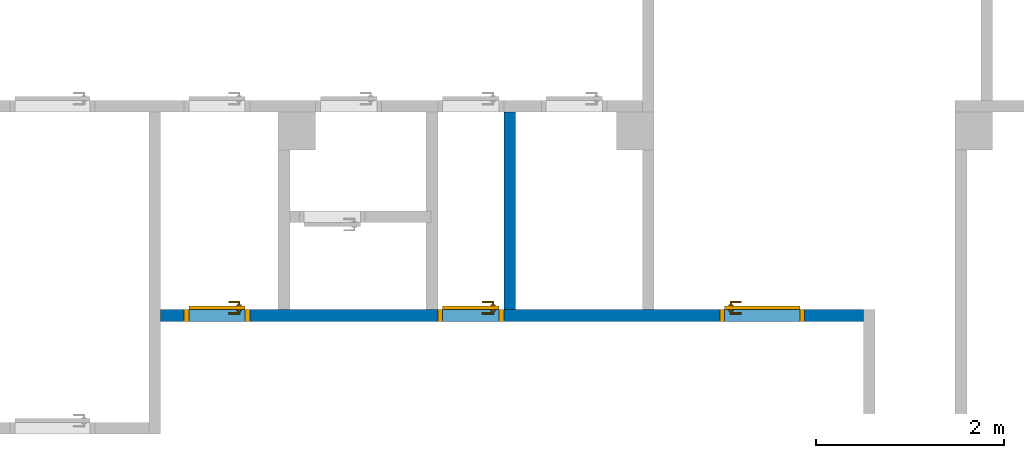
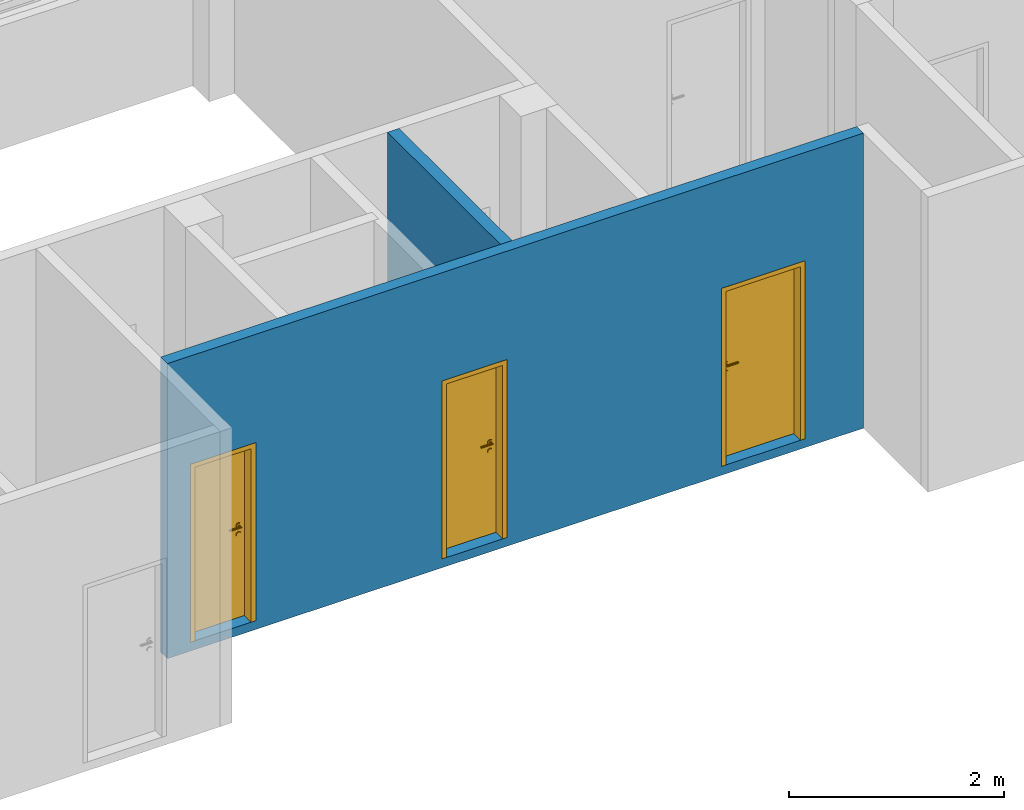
# One storey, part 7 of 37: 3 doors, 2 walls, 3 openings.
"""IFC4 building model written with IfcOpenShell, lengths in metres."""

from ifc_helpers import new_model, entity, si_unit, converted_unit, derived_unit, frame, frame_2d, origin, origin_with_axes, place, context, subcontext, project, spatial, polyline, rectangle, outline, extrude, closed_shell, open_shell, surface_model, source, transform, mapped, material, layer, layer_set, layer_usage, type_object, element, fill, save


model = new_model("IFC4")

# Units and contexts
model_context = context("Model", 3, precision=1e-05, world=origin())
body_context = subcontext(model_context, "Body", "Model", "MODEL_VIEW")
ifc_project = project(units=[si_unit("LENGTHUNIT", "METRE"), si_unit("AREAUNIT", "SQUARE_METRE"), si_unit("VOLUMEUNIT", "CUBIC_METRE"), si_unit("MASSUNIT", "GRAM", prefix="KILO"), converted_unit("PLANEANGLEUNIT", "DEGREE", entity("IfcPlaneAngleMeasure", 0.0174532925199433), si_unit("PLANEANGLEUNIT", "RADIAN"), dimensions=[0, 0, 0, 0, 0, 0, 0]), derived_unit("THERMALTRANSMITTANCEUNIT", [(si_unit("POWERUNIT", "WATT"), 1), (si_unit("THERMODYNAMICTEMPERATUREUNIT", "KELVIN"), -1), (si_unit("LENGTHUNIT", "METRE"), -2)]), derived_unit("VOLUMETRICFLOWRATEUNIT", [(si_unit("LENGTHUNIT", "METRE"), 3), (converted_unit("TIMEUNIT", "hour", entity("IfcTimeMeasure", 3600.0), si_unit("TIMEUNIT", "SECOND"), dimensions=[0, 0, 1, 0, 0, 0, 0]), -1), (si_unit("LENGTHUNIT", "METRE"), -1)])], contexts=[model_context])

# Site, building, storey
site_placement = place(None, origin())
site = spatial("IfcSite", under=ifc_project, at=site_placement, Name="3. ASŘ", CompositionType="ELEMENT")
building_placement = place(site_placement, origin())
building = spatial("IfcBuilding", under=site, at=building_placement, Name="Pavilon B", CompositionType="ELEMENT")
storey_placement = place(building_placement, origin())
storey = spatial("IfcBuildingStorey", under=building, at=storey_placement, Name="Půdorys 1.NP", CompositionType="ELEMENT", Elevation=0.0)

# Wall, openings, doors
ifc_material_1 = material(Name="ZDIVO Z CDm")
ifc_layer_1 = layer(ifc_material_1, 0.125)
ifc_layer_set_1 = layer_set([ifc_layer_1])
ifc_layer_usage_1 = layer_usage(ifc_layer_set_1, "AXIS2", "POSITIVE", 0.0)
wall_1_placement = place(storey_placement, frame((23.425, -23.5, -0.1), z_axis=(0.0, 0.0, 1.0), x_axis=(-1.0, 0.0, 0.0)))
wall_1 = element("IfcWall", 1, at=wall_1_placement, inside=storey, material=ifc_layer_usage_1, Name="ZDIVO Z CDm", context=body_context, shape_type="SweptSolid", body=[
    extrude(rectangle(XDim=7.475, YDim=0.125, at=frame_2d((3.7375, 0.0625), x_axis=(1.0, 0.0))), origin_with_axes(), (0.0, 0.0, 1.0), 3.35),
])
opening_1_placement = place(wall_1_placement, frame((3.825, 0.0, 0.1), z_axis=(0.0, 1.0, 0.0), x_axis=(0.0, 0.0, 1.0)))
opening_1 = element("IfcOpeningElement", 2, at=opening_1_placement, cuts=wall_1, Name="Dveřní otvor", ObjectType="Opening", context=body_context, shape_type="SweptSolid", body=[
    extrude(outline(polyline([(0.0, 0.7), (2.02, 0.7), (2.02, 0.0), (0.0, 0.0), (0.0, 0.7)])), origin_with_axes(), (0.0, 0.0, 1.0), 0.125),
])
opening_2_placement = place(wall_1_placement, frame((6.525, 0.0, 0.1), z_axis=(0.0, 1.0, 0.0), x_axis=(0.0, 0.0, 1.0)))
opening_2 = element("IfcOpeningElement", 3, at=opening_2_placement, cuts=wall_1, Name="Dveřní otvor", ObjectType="Opening", context=body_context, shape_type="SweptSolid", body=[
    extrude(outline(polyline([(0.0, 0.7), (2.02, 0.7), (2.02, 0.0), (0.0, 0.0), (0.0, 0.7)])), origin_with_axes(), (0.0, 0.0, 1.0), 0.125),
])
opening_3_placement = place(wall_1_placement, frame((0.625000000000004, 0.0, 0.1), z_axis=(0.0, 1.0, 0.0), x_axis=(0.0, 0.0, 1.0)))
opening_3 = element("IfcOpeningElement", 4, at=opening_3_placement, cuts=wall_1, Name="Dveřní otvor", ObjectType="Opening", context=body_context, shape_type="SweptSolid", body=[
    extrude(outline(polyline([(0.0, 0.9), (2.02, 0.9), (2.02, 0.0), (0.0, 0.0), (0.0, 0.9)])), origin_with_axes(), (0.0, 0.0, 1.0), 0.125),
])
door_type_1 = type_object("IfcDoorType", Name="D101", OperationType="NOTDEFINED", ParameterTakesPrecedence=False, PredefinedType="DOOR")
shared_shape_1 = source(origin_with_axes(), body_context, "Body", "SurfaceModel", [
    surface_model("IfcShellBasedSurfaceModel", [(0.0, 0.125, 2.02), (0.0, 0.125, -7.65404249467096e-18), (0.05, 0.125, -7.65404249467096e-18), (0.05, 0.125, 2.02), (0.0, 0.0, 7.65404249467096e-18), (0.0, 2.41584530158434e-16, 2.02), (0.05, 2.41584530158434e-16, 2.02), (0.05, 0.0, 7.65404249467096e-18)], [closed_shell([[[0, 1, 2, 3]], [[4, 5, 6, 7]], [[1, 0, 5, 4]], [[2, 1, 4, 7]], [[3, 2, 7, 6]], [[0, 3, 6, 5]]], orient=[[False], [False], [False], [False], [False], [False]])]),
    surface_model("IfcShellBasedSurfaceModel", [(0.65, 0.125, 2.02), (0.65, 0.125, -7.65404249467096e-18), (0.7, 0.125, -7.65404249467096e-18), (0.7, 0.125, 2.02), (0.65, 0.0, 7.65404249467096e-18), (0.65, 2.41584530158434e-16, 2.02), (0.7, 2.41584530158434e-16, 2.02), (0.7, 0.0, 7.65404249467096e-18)], [closed_shell([[[0, 1, 2, 3]], [[4, 5, 6, 7]], [[1, 0, 5, 4]], [[2, 1, 4, 7]], [[3, 2, 7, 6]], [[0, 3, 6, 5]]], orient=[[False], [False], [False], [False], [False], [False]])]),
    surface_model("IfcShellBasedSurfaceModel", [(0.05, 0.125, 2.02), (0.05, 0.125, 1.97), (0.65, 0.125, 1.97), (0.65, 0.125, 2.02), (0.05, 2.41584530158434e-16, 1.97), (0.05, 2.41584530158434e-16, 2.02), (0.65, 2.41584530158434e-16, 2.02), (0.65, 2.41584530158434e-16, 1.97)], [closed_shell([[[0, 1, 2, 3]], [[4, 5, 6, 7]], [[1, 0, 5, 4]], [[2, 1, 4, 7]], [[3, 2, 7, 6]], [[0, 3, 6, 5]]], orient=[[False], [False], [False], [False], [False], [False]])]),
    surface_model("IfcShellBasedSurfaceModel", [(0.05, 0.165, 1.97), (0.05, 0.165, -1.25526296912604e-17), (0.65, 0.165, -1.25526296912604e-17), (0.65, 0.165, 1.97), (0.05, 0.125, -7.65404249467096e-18), (0.05, 0.125, 1.97), (0.65, 0.125, 1.97), (0.65, 0.125, -7.65404249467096e-18)], [closed_shell([[[0, 1, 2, 3]], [[4, 5, 6, 7]], [[1, 0, 5, 4]], [[2, 1, 4, 7]], [[3, 2, 7, 6]], [[0, 3, 6, 5]]], orient=[[False], [False], [False], [False], [False], [False]])]),
    surface_model("IfcShellBasedSurfaceModel", [(0.608815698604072, 0.125, 0.93625), (0.6125, 0.125, 0.95), (0.608815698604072, 0.125, 0.96375), (0.59875, 0.125, 0.973815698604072), (0.585, 0.125, 0.9775), (0.57125, 0.125, 0.973815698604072), (0.561184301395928, 0.125, 0.96375), (0.5575, 0.125, 0.95), (0.561184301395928, 0.125, 0.93625), (0.57125, 0.125, 0.926184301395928), (0.585, 0.125, 0.9225), (0.59875, 0.125, 0.926184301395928), (0.6125, 0.1125, 0.95), (0.608815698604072, 0.1125, 0.93625), (0.59875, 0.1125, 0.926184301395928), (0.585, 0.1125, 0.9225), (0.57125, 0.1125, 0.926184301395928), (0.561184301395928, 0.1125, 0.93625), (0.5575, 0.1125, 0.95), (0.561184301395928, 0.1125, 0.96375), (0.57125, 0.1125, 0.973815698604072), (0.585, 0.1125, 0.9775), (0.59875, 0.1125, 0.973815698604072), (0.608815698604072, 0.1125, 0.96375)], [closed_shell([[[0, 1, 2, 3, 4, 5, 6, 7, 8, 9, 10, 11]], [[12, 13, 14, 15, 16, 17, 18, 19, 20, 21, 22, 23]], [[1, 0, 13, 12]], [[2, 1, 12, 23]], [[3, 2, 23, 22]], [[4, 3, 22, 21]], [[5, 4, 21, 20]], [[6, 5, 20, 19]], [[7, 6, 19, 18]], [[8, 7, 18, 17]], [[9, 8, 17, 16]], [[10, 9, 16, 15]], [[11, 10, 15, 14]], [[0, 11, 14, 13]]], orient=[[False], [False], [False], [False], [False], [False], [False], [False], [False], [False], [False], [False], [False], [False]])]),
    surface_model("IfcShellBasedSurfaceModel", [(0.608815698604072, 0.125, 1.03625), (0.6125, 0.125, 1.05), (0.608815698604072, 0.125, 1.06375), (0.59875, 0.125, 1.07381569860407), (0.585, 0.125, 1.0775), (0.57125, 0.125, 1.07381569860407), (0.561184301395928, 0.125, 1.06375), (0.5575, 0.125, 1.05), (0.561184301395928, 0.125, 1.03625), (0.57125, 0.125, 1.02618430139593), (0.585, 0.125, 1.0225), (0.59875, 0.125, 1.02618430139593), (0.6125, 0.1125, 1.05), (0.608815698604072, 0.1125, 1.03625), (0.59875, 0.1125, 1.02618430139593), (0.585, 0.1125, 1.0225), (0.57125, 0.1125, 1.02618430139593), (0.561184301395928, 0.1125, 1.03625), (0.5575, 0.1125, 1.05), (0.561184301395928, 0.1125, 1.06375), (0.57125, 0.1125, 1.07381569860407), (0.585, 0.1125, 1.0775), (0.59875, 0.1125, 1.07381569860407), (0.608815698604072, 0.1125, 1.06375)], [closed_shell([[[0, 1, 2, 3, 4, 5, 6, 7, 8, 9, 10, 11]], [[12, 13, 14, 15, 16, 17, 18, 19, 20, 21, 22, 23]], [[1, 0, 13, 12]], [[2, 1, 12, 23]], [[3, 2, 23, 22]], [[4, 3, 22, 21]], [[5, 4, 21, 20]], [[6, 5, 20, 19]], [[7, 6, 19, 18]], [[8, 7, 18, 17]], [[9, 8, 17, 16]], [[10, 9, 16, 15]], [[11, 10, 15, 14]], [[0, 11, 14, 13]]], orient=[[False], [False], [False], [False], [False], [False], [False], [False], [False], [False], [False], [False], [False], [False]])]),
    surface_model("IfcShellBasedSurfaceModel", [(0.585, 0.125, 1.06), (0.58, 0.125, 1.05866025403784), (0.576339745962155, 0.125, 1.055), (0.575, 0.125, 1.05), (0.576339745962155, 0.125, 1.045), (0.58, 0.125, 1.04133974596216), (0.585, 0.125, 1.04), (0.59, 0.125, 1.04133974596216), (0.593660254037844, 0.125, 1.045), (0.595, 0.125, 1.05), (0.593660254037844, 0.125, 1.055), (0.59, 0.125, 1.05866025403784), (0.59, 0.0800000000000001, 1.05866025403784), (0.585, 0.0850000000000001, 1.06), (0.593660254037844, 0.0763397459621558, 1.055), (0.595, 0.0750000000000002, 1.05), (0.593660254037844, 0.0763397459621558, 1.045), (0.59, 0.0800000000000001, 1.04133974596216), (0.585, 0.0850000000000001, 1.04), (0.58, 0.0900000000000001, 1.04133974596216), (0.576339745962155, 0.0936602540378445, 1.045), (0.575, 0.0950000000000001, 1.05), (0.576339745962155, 0.0936602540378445, 1.055), (0.58, 0.0900000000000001, 1.05866025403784), (0.47, 0.0800000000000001, 1.05866025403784), (0.47, 0.0850000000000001, 1.06), (0.47, 0.0763397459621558, 1.055), (0.47, 0.0750000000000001, 1.05), (0.47, 0.0763397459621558, 1.045), (0.47, 0.0800000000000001, 1.04133974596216), (0.47, 0.0850000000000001, 1.04), (0.47, 0.0900000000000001, 1.04133974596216), (0.47, 0.0936602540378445, 1.045), (0.47, 0.0950000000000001, 1.05), (0.47, 0.0936602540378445, 1.055), (0.47, 0.0900000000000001, 1.05866025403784)], [open_shell([[[0, 1, 2, 3, 4, 5, 6, 7, 8, 9, 10, 11]], [[0, 11, 12, 13]], [[11, 10, 14, 12]], [[10, 9, 15, 14]], [[9, 8, 16, 15]], [[8, 7, 17, 16]], [[7, 6, 18, 17]], [[6, 5, 19, 18]], [[5, 4, 20, 19]], [[4, 3, 21, 20]], [[3, 2, 22, 21]], [[2, 1, 23, 22]], [[1, 0, 13, 23]], [[13, 12, 24, 25]], [[12, 14, 26, 24]], [[14, 15, 27, 26]], [[15, 16, 28, 27]], [[16, 17, 29, 28]], [[17, 18, 30, 29]], [[18, 19, 31, 30]], [[19, 20, 32, 31]], [[20, 21, 33, 32]], [[21, 22, 34, 33]], [[22, 23, 35, 34]], [[23, 13, 25, 35]]], orient=[[False], [False], [False], [False], [False], [False], [False], [False], [False], [False], [False], [False], [False], [False], [False], [False], [False], [False], [False], [False], [False], [False], [False], [False], [False]])]),
    surface_model("IfcShellBasedSurfaceModel", [(0.608815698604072, 0.165, 0.93625), (0.59875, 0.165, 0.926184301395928), (0.585, 0.165, 0.9225), (0.57125, 0.165, 0.926184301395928), (0.561184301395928, 0.165, 0.93625), (0.5575, 0.165, 0.95), (0.561184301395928, 0.165, 0.96375), (0.57125, 0.165, 0.973815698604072), (0.585, 0.165, 0.9775), (0.59875, 0.165, 0.973815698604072), (0.608815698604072, 0.165, 0.96375), (0.6125, 0.165, 0.95), (0.6125, 0.1775, 0.95), (0.608815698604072, 0.1775, 0.96375), (0.59875, 0.1775, 0.973815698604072), (0.585, 0.1775, 0.9775), (0.57125, 0.1775, 0.973815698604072), (0.561184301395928, 0.1775, 0.96375), (0.5575, 0.1775, 0.95), (0.561184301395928, 0.1775, 0.93625), (0.57125, 0.1775, 0.926184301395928), (0.585, 0.1775, 0.9225), (0.59875, 0.1775, 0.926184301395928), (0.608815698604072, 0.1775, 0.93625)], [closed_shell([[[0, 1, 2, 3, 4, 5, 6, 7, 8, 9, 10, 11]], [[12, 13, 14, 15, 16, 17, 18, 19, 20, 21, 22, 23]], [[11, 12, 23, 0]], [[10, 13, 12, 11]], [[9, 14, 13, 10]], [[8, 15, 14, 9]], [[7, 16, 15, 8]], [[6, 17, 16, 7]], [[5, 18, 17, 6]], [[4, 19, 18, 5]], [[3, 20, 19, 4]], [[2, 21, 20, 3]], [[1, 22, 21, 2]], [[0, 23, 22, 1]]], orient=[[False], [False], [False], [False], [False], [False], [False], [False], [False], [False], [False], [False], [False], [False]])]),
    surface_model("IfcShellBasedSurfaceModel", [(0.608815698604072, 0.165, 1.03625), (0.59875, 0.165, 1.02618430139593), (0.585, 0.165, 1.0225), (0.57125, 0.165, 1.02618430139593), (0.561184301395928, 0.165, 1.03625), (0.5575, 0.165, 1.05), (0.561184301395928, 0.165, 1.06375), (0.57125, 0.165, 1.07381569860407), (0.585, 0.165, 1.0775), (0.59875, 0.165, 1.07381569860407), (0.608815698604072, 0.165, 1.06375), (0.6125, 0.165, 1.05), (0.6125, 0.1775, 1.05), (0.608815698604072, 0.1775, 1.06375), (0.59875, 0.1775, 1.07381569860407), (0.585, 0.1775, 1.0775), (0.57125, 0.1775, 1.07381569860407), (0.561184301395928, 0.1775, 1.06375), (0.5575, 0.1775, 1.05), (0.561184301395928, 0.1775, 1.03625), (0.57125, 0.1775, 1.02618430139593), (0.585, 0.1775, 1.0225), (0.59875, 0.1775, 1.02618430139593), (0.608815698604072, 0.1775, 1.03625)], [closed_shell([[[0, 1, 2, 3, 4, 5, 6, 7, 8, 9, 10, 11]], [[12, 13, 14, 15, 16, 17, 18, 19, 20, 21, 22, 23]], [[11, 12, 23, 0]], [[10, 13, 12, 11]], [[9, 14, 13, 10]], [[8, 15, 14, 9]], [[7, 16, 15, 8]], [[6, 17, 16, 7]], [[5, 18, 17, 6]], [[4, 19, 18, 5]], [[3, 20, 19, 4]], [[2, 21, 20, 3]], [[1, 22, 21, 2]], [[0, 23, 22, 1]]], orient=[[False], [False], [False], [False], [False], [False], [False], [False], [False], [False], [False], [False], [False], [False]])]),
    surface_model("IfcShellBasedSurfaceModel", [(0.585, 0.165, 1.06), (0.59, 0.165, 1.05866025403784), (0.593660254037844, 0.165, 1.055), (0.595, 0.165, 1.05), (0.593660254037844, 0.165, 1.045), (0.59, 0.165, 1.04133974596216), (0.585, 0.165, 1.04), (0.58, 0.165, 1.04133974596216), (0.576339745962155, 0.165, 1.045), (0.575, 0.165, 1.05), (0.576339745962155, 0.165, 1.055), (0.58, 0.165, 1.05866025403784), (0.585, 0.205, 1.06), (0.59, 0.21, 1.05866025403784), (0.593660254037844, 0.213660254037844, 1.055), (0.595, 0.215, 1.05), (0.593660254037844, 0.213660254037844, 1.045), (0.59, 0.21, 1.04133974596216), (0.585, 0.205, 1.04), (0.58, 0.2, 1.04133974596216), (0.576339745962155, 0.196339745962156, 1.045), (0.575, 0.195, 1.05), (0.576339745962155, 0.196339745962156, 1.055), (0.58, 0.2, 1.05866025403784), (0.47, 0.205, 1.06), (0.47, 0.21, 1.05866025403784), (0.47, 0.213660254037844, 1.055), (0.47, 0.215, 1.05), (0.47, 0.213660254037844, 1.045), (0.47, 0.21, 1.04133974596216), (0.47, 0.205, 1.04), (0.47, 0.2, 1.04133974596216), (0.47, 0.196339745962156, 1.045), (0.47, 0.195, 1.05), (0.47, 0.196339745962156, 1.055), (0.47, 0.2, 1.05866025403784)], [open_shell([[[0, 1, 2, 3, 4, 5, 6, 7, 8, 9, 10, 11]], [[0, 12, 13, 1]], [[1, 13, 14, 2]], [[2, 14, 15, 3]], [[3, 15, 16, 4]], [[4, 16, 17, 5]], [[5, 17, 18, 6]], [[6, 18, 19, 7]], [[7, 19, 20, 8]], [[8, 20, 21, 9]], [[9, 21, 22, 10]], [[10, 22, 23, 11]], [[11, 23, 12, 0]], [[12, 24, 25, 13]], [[13, 25, 26, 14]], [[14, 26, 27, 15]], [[15, 27, 28, 16]], [[16, 28, 29, 17]], [[17, 29, 30, 18]], [[18, 30, 31, 19]], [[19, 31, 32, 20]], [[20, 32, 33, 21]], [[21, 33, 34, 22]], [[22, 34, 35, 23]], [[23, 35, 24, 12]]], orient=[[False], [False], [False], [False], [False], [False], [False], [False], [False], [False], [False], [False], [False], [False], [False], [False], [False], [False], [False], [False], [False], [False], [False], [False], [False]])]),
])
door_1_placement = place(opening_1_placement, frame((0.0, 0.7, 0.125), z_axis=(1.0, 0.0, 0.0), x_axis=(0.0, -1.0, 2.44929359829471e-16)))
door_1 = element("IfcDoor", 5, at=door_1_placement, inside=storey, type_object=door_type_1, Name="D101", OverallHeight=2.02, OverallWidth=0.7, context=body_context, shape_type="MappedRepresentation", body=[
    mapped(shared_shape_1, transform((0.0, 0.0, 0.0), x_axis=(1.0, 0.0, 0.0), y_axis=(0.0, 1.0, 0.0), z_axis=(0.0, 0.0, 1.0), scale=1.0)),
])
fill(opening_1, door_1)
door_type_2 = type_object("IfcDoorType", Name="D101", OperationType="NOTDEFINED", ParameterTakesPrecedence=False, PredefinedType="DOOR")
door_2_placement = place(opening_2_placement, frame((0.0, 0.7, 0.125), z_axis=(1.0, 0.0, 0.0), x_axis=(0.0, -1.0, 2.44929359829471e-16)))
door_2 = element("IfcDoor", 6, at=door_2_placement, inside=storey, type_object=door_type_2, Name="D101", OverallHeight=2.02, OverallWidth=0.7, context=body_context, shape_type="MappedRepresentation", body=[
    mapped(shared_shape_1, transform((0.0, 0.0, 0.0), x_axis=(1.0, 0.0, 0.0), y_axis=(0.0, 1.0, 0.0), z_axis=(0.0, 0.0, 1.0), scale=1.0)),
])
fill(opening_2, door_2)
door_type_3 = type_object("IfcDoorType", Name="D101", OperationType="NOTDEFINED", ParameterTakesPrecedence=False, PredefinedType="DOOR")
shared_shape_2 = source(origin_with_axes(), body_context, "Body", "SurfaceModel", [
    surface_model("IfcShellBasedSurfaceModel", [(0.0, 0.125, 2.02), (0.0, 0.125, -7.65404249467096e-18), (0.05, 0.125, -7.65404249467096e-18), (0.05, 0.125, 2.02), (0.0, 0.0, 7.65404249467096e-18), (0.0, 2.41584530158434e-16, 2.02), (0.05, 2.41584530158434e-16, 2.02), (0.05, 0.0, 7.65404249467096e-18)], [closed_shell([[[0, 1, 2, 3]], [[4, 5, 6, 7]], [[1, 0, 5, 4]], [[2, 1, 4, 7]], [[3, 2, 7, 6]], [[0, 3, 6, 5]]], orient=[[False], [False], [False], [False], [False], [False]])]),
    surface_model("IfcShellBasedSurfaceModel", [(0.85, 0.125, 2.02), (0.85, 0.125, -7.65404249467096e-18), (0.9, 0.125, -7.65404249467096e-18), (0.9, 0.125, 2.02), (0.85, 0.0, 7.65404249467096e-18), (0.85, 2.41584530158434e-16, 2.02), (0.9, 2.41584530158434e-16, 2.02), (0.9, 0.0, 7.65404249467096e-18)], [closed_shell([[[0, 1, 2, 3]], [[4, 5, 6, 7]], [[1, 0, 5, 4]], [[2, 1, 4, 7]], [[3, 2, 7, 6]], [[0, 3, 6, 5]]], orient=[[False], [False], [False], [False], [False], [False]])]),
    surface_model("IfcShellBasedSurfaceModel", [(0.05, 0.125, 2.02), (0.05, 0.125, 1.97), (0.85, 0.125, 1.97), (0.85, 0.125, 2.02), (0.05, 2.41584530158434e-16, 1.97), (0.05, 2.41584530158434e-16, 2.02), (0.85, 2.41584530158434e-16, 2.02), (0.85, 2.41584530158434e-16, 1.97)], [closed_shell([[[0, 1, 2, 3]], [[4, 5, 6, 7]], [[1, 0, 5, 4]], [[2, 1, 4, 7]], [[3, 2, 7, 6]], [[0, 3, 6, 5]]], orient=[[False], [False], [False], [False], [False], [False]])]),
    surface_model("IfcShellBasedSurfaceModel", [(0.05, 0.165, 1.97), (0.05, 0.165, -1.25526296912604e-17), (0.85, 0.165, -1.25526296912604e-17), (0.85, 0.165, 1.97), (0.05, 0.125, -7.65404249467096e-18), (0.05, 0.125, 1.97), (0.85, 0.125, 1.97), (0.85, 0.125, -7.65404249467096e-18)], [closed_shell([[[0, 1, 2, 3]], [[4, 5, 6, 7]], [[1, 0, 5, 4]], [[2, 1, 4, 7]], [[3, 2, 7, 6]], [[0, 3, 6, 5]]], orient=[[False], [False], [False], [False], [False], [False]])]),
    surface_model("IfcShellBasedSurfaceModel", [(0.808815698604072, 0.125, 0.93625), (0.8125, 0.125, 0.95), (0.808815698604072, 0.125, 0.96375), (0.79875, 0.125, 0.973815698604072), (0.785, 0.125, 0.9775), (0.77125, 0.125, 0.973815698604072), (0.761184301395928, 0.125, 0.96375), (0.7575, 0.125, 0.95), (0.761184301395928, 0.125, 0.93625), (0.77125, 0.125, 0.926184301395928), (0.785, 0.125, 0.9225), (0.79875, 0.125, 0.926184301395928), (0.8125, 0.1125, 0.95), (0.808815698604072, 0.1125, 0.93625), (0.79875, 0.1125, 0.926184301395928), (0.785, 0.1125, 0.9225), (0.77125, 0.1125, 0.926184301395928), (0.761184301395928, 0.1125, 0.93625), (0.7575, 0.1125, 0.95), (0.761184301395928, 0.1125, 0.96375), (0.77125, 0.1125, 0.973815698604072), (0.785, 0.1125, 0.9775), (0.79875, 0.1125, 0.973815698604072), (0.808815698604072, 0.1125, 0.96375)], [closed_shell([[[0, 1, 2, 3, 4, 5, 6, 7, 8, 9, 10, 11]], [[12, 13, 14, 15, 16, 17, 18, 19, 20, 21, 22, 23]], [[1, 0, 13, 12]], [[2, 1, 12, 23]], [[3, 2, 23, 22]], [[4, 3, 22, 21]], [[5, 4, 21, 20]], [[6, 5, 20, 19]], [[7, 6, 19, 18]], [[8, 7, 18, 17]], [[9, 8, 17, 16]], [[10, 9, 16, 15]], [[11, 10, 15, 14]], [[0, 11, 14, 13]]], orient=[[False], [False], [False], [False], [False], [False], [False], [False], [False], [False], [False], [False], [False], [False]])]),
    surface_model("IfcShellBasedSurfaceModel", [(0.808815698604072, 0.125, 1.03625), (0.8125, 0.125, 1.05), (0.808815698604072, 0.125, 1.06375), (0.79875, 0.125, 1.07381569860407), (0.785, 0.125, 1.0775), (0.77125, 0.125, 1.07381569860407), (0.761184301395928, 0.125, 1.06375), (0.7575, 0.125, 1.05), (0.761184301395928, 0.125, 1.03625), (0.77125, 0.125, 1.02618430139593), (0.785, 0.125, 1.0225), (0.79875, 0.125, 1.02618430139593), (0.8125, 0.1125, 1.05), (0.808815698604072, 0.1125, 1.03625), (0.79875, 0.1125, 1.02618430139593), (0.785, 0.1125, 1.0225), (0.77125, 0.1125, 1.02618430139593), (0.761184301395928, 0.1125, 1.03625), (0.7575, 0.1125, 1.05), (0.761184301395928, 0.1125, 1.06375), (0.77125, 0.1125, 1.07381569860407), (0.785, 0.1125, 1.0775), (0.79875, 0.1125, 1.07381569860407), (0.808815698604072, 0.1125, 1.06375)], [closed_shell([[[0, 1, 2, 3, 4, 5, 6, 7, 8, 9, 10, 11]], [[12, 13, 14, 15, 16, 17, 18, 19, 20, 21, 22, 23]], [[1, 0, 13, 12]], [[2, 1, 12, 23]], [[3, 2, 23, 22]], [[4, 3, 22, 21]], [[5, 4, 21, 20]], [[6, 5, 20, 19]], [[7, 6, 19, 18]], [[8, 7, 18, 17]], [[9, 8, 17, 16]], [[10, 9, 16, 15]], [[11, 10, 15, 14]], [[0, 11, 14, 13]]], orient=[[False], [False], [False], [False], [False], [False], [False], [False], [False], [False], [False], [False], [False], [False]])]),
    surface_model("IfcShellBasedSurfaceModel", [(0.785, 0.125, 1.06), (0.78, 0.125, 1.05866025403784), (0.776339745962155, 0.125, 1.055), (0.775, 0.125, 1.05), (0.776339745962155, 0.125, 1.045), (0.78, 0.125, 1.04133974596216), (0.785, 0.125, 1.04), (0.79, 0.125, 1.04133974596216), (0.793660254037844, 0.125, 1.045), (0.795, 0.125, 1.05), (0.793660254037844, 0.125, 1.055), (0.79, 0.125, 1.05866025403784), (0.79, 0.0800000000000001, 1.05866025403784), (0.785, 0.0850000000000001, 1.06), (0.793660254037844, 0.0763397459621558, 1.055), (0.795, 0.0750000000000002, 1.05), (0.793660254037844, 0.0763397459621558, 1.045), (0.79, 0.0800000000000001, 1.04133974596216), (0.785, 0.0850000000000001, 1.04), (0.78, 0.0900000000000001, 1.04133974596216), (0.776339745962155, 0.0936602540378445, 1.045), (0.775, 0.0950000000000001, 1.05), (0.776339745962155, 0.0936602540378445, 1.055), (0.78, 0.0900000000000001, 1.05866025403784), (0.67, 0.0800000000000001, 1.05866025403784), (0.67, 0.0850000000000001, 1.06), (0.67, 0.0763397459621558, 1.055), (0.67, 0.0750000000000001, 1.05), (0.67, 0.0763397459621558, 1.045), (0.67, 0.0800000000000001, 1.04133974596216), (0.67, 0.0850000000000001, 1.04), (0.67, 0.0900000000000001, 1.04133974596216), (0.67, 0.0936602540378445, 1.045), (0.67, 0.0950000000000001, 1.05), (0.67, 0.0936602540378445, 1.055), (0.67, 0.0900000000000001, 1.05866025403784)], [open_shell([[[0, 1, 2, 3, 4, 5, 6, 7, 8, 9, 10, 11]], [[0, 11, 12, 13]], [[11, 10, 14, 12]], [[10, 9, 15, 14]], [[9, 8, 16, 15]], [[8, 7, 17, 16]], [[7, 6, 18, 17]], [[6, 5, 19, 18]], [[5, 4, 20, 19]], [[4, 3, 21, 20]], [[3, 2, 22, 21]], [[2, 1, 23, 22]], [[1, 0, 13, 23]], [[13, 12, 24, 25]], [[12, 14, 26, 24]], [[14, 15, 27, 26]], [[15, 16, 28, 27]], [[16, 17, 29, 28]], [[17, 18, 30, 29]], [[18, 19, 31, 30]], [[19, 20, 32, 31]], [[20, 21, 33, 32]], [[21, 22, 34, 33]], [[22, 23, 35, 34]], [[23, 13, 25, 35]]], orient=[[False], [False], [False], [False], [False], [False], [False], [False], [False], [False], [False], [False], [False], [False], [False], [False], [False], [False], [False], [False], [False], [False], [False], [False], [False]])]),
    surface_model("IfcShellBasedSurfaceModel", [(0.808815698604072, 0.165, 0.93625), (0.79875, 0.165, 0.926184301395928), (0.785, 0.165, 0.9225), (0.77125, 0.165, 0.926184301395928), (0.761184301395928, 0.165, 0.93625), (0.7575, 0.165, 0.95), (0.761184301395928, 0.165, 0.96375), (0.77125, 0.165, 0.973815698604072), (0.785, 0.165, 0.9775), (0.79875, 0.165, 0.973815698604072), (0.808815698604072, 0.165, 0.96375), (0.8125, 0.165, 0.95), (0.8125, 0.1775, 0.95), (0.808815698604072, 0.1775, 0.96375), (0.79875, 0.1775, 0.973815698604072), (0.785, 0.1775, 0.9775), (0.77125, 0.1775, 0.973815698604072), (0.761184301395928, 0.1775, 0.96375), (0.7575, 0.1775, 0.95), (0.761184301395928, 0.1775, 0.93625), (0.77125, 0.1775, 0.926184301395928), (0.785, 0.1775, 0.9225), (0.79875, 0.1775, 0.926184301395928), (0.808815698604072, 0.1775, 0.93625)], [closed_shell([[[0, 1, 2, 3, 4, 5, 6, 7, 8, 9, 10, 11]], [[12, 13, 14, 15, 16, 17, 18, 19, 20, 21, 22, 23]], [[11, 12, 23, 0]], [[10, 13, 12, 11]], [[9, 14, 13, 10]], [[8, 15, 14, 9]], [[7, 16, 15, 8]], [[6, 17, 16, 7]], [[5, 18, 17, 6]], [[4, 19, 18, 5]], [[3, 20, 19, 4]], [[2, 21, 20, 3]], [[1, 22, 21, 2]], [[0, 23, 22, 1]]], orient=[[False], [False], [False], [False], [False], [False], [False], [False], [False], [False], [False], [False], [False], [False]])]),
    surface_model("IfcShellBasedSurfaceModel", [(0.808815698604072, 0.165, 1.03625), (0.79875, 0.165, 1.02618430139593), (0.785, 0.165, 1.0225), (0.77125, 0.165, 1.02618430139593), (0.761184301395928, 0.165, 1.03625), (0.7575, 0.165, 1.05), (0.761184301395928, 0.165, 1.06375), (0.77125, 0.165, 1.07381569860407), (0.785, 0.165, 1.0775), (0.79875, 0.165, 1.07381569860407), (0.808815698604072, 0.165, 1.06375), (0.8125, 0.165, 1.05), (0.8125, 0.1775, 1.05), (0.808815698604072, 0.1775, 1.06375), (0.79875, 0.1775, 1.07381569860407), (0.785, 0.1775, 1.0775), (0.77125, 0.1775, 1.07381569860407), (0.761184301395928, 0.1775, 1.06375), (0.7575, 0.1775, 1.05), (0.761184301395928, 0.1775, 1.03625), (0.77125, 0.1775, 1.02618430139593), (0.785, 0.1775, 1.0225), (0.79875, 0.1775, 1.02618430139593), (0.808815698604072, 0.1775, 1.03625)], [closed_shell([[[0, 1, 2, 3, 4, 5, 6, 7, 8, 9, 10, 11]], [[12, 13, 14, 15, 16, 17, 18, 19, 20, 21, 22, 23]], [[11, 12, 23, 0]], [[10, 13, 12, 11]], [[9, 14, 13, 10]], [[8, 15, 14, 9]], [[7, 16, 15, 8]], [[6, 17, 16, 7]], [[5, 18, 17, 6]], [[4, 19, 18, 5]], [[3, 20, 19, 4]], [[2, 21, 20, 3]], [[1, 22, 21, 2]], [[0, 23, 22, 1]]], orient=[[False], [False], [False], [False], [False], [False], [False], [False], [False], [False], [False], [False], [False], [False]])]),
    surface_model("IfcShellBasedSurfaceModel", [(0.785, 0.165, 1.06), (0.79, 0.165, 1.05866025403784), (0.793660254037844, 0.165, 1.055), (0.795, 0.165, 1.05), (0.793660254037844, 0.165, 1.045), (0.79, 0.165, 1.04133974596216), (0.785, 0.165, 1.04), (0.78, 0.165, 1.04133974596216), (0.776339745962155, 0.165, 1.045), (0.775, 0.165, 1.05), (0.776339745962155, 0.165, 1.055), (0.78, 0.165, 1.05866025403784), (0.785, 0.205, 1.06), (0.79, 0.21, 1.05866025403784), (0.793660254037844, 0.213660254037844, 1.055), (0.795, 0.215, 1.05), (0.793660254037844, 0.213660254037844, 1.045), (0.79, 0.21, 1.04133974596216), (0.785, 0.205, 1.04), (0.78, 0.2, 1.04133974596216), (0.776339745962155, 0.196339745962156, 1.045), (0.775, 0.195, 1.05), (0.776339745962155, 0.196339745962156, 1.055), (0.78, 0.2, 1.05866025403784), (0.67, 0.205, 1.06), (0.67, 0.21, 1.05866025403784), (0.67, 0.213660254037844, 1.055), (0.67, 0.215, 1.05), (0.67, 0.213660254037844, 1.045), (0.67, 0.21, 1.04133974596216), (0.67, 0.205, 1.04), (0.67, 0.2, 1.04133974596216), (0.67, 0.196339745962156, 1.045), (0.67, 0.195, 1.05), (0.67, 0.196339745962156, 1.055), (0.67, 0.2, 1.05866025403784)], [open_shell([[[0, 1, 2, 3, 4, 5, 6, 7, 8, 9, 10, 11]], [[0, 12, 13, 1]], [[1, 13, 14, 2]], [[2, 14, 15, 3]], [[3, 15, 16, 4]], [[4, 16, 17, 5]], [[5, 17, 18, 6]], [[6, 18, 19, 7]], [[7, 19, 20, 8]], [[8, 20, 21, 9]], [[9, 21, 22, 10]], [[10, 22, 23, 11]], [[11, 23, 12, 0]], [[12, 24, 25, 13]], [[13, 25, 26, 14]], [[14, 26, 27, 15]], [[15, 27, 28, 16]], [[16, 28, 29, 17]], [[17, 29, 30, 18]], [[18, 30, 31, 19]], [[19, 31, 32, 20]], [[20, 32, 33, 21]], [[21, 33, 34, 22]], [[22, 34, 35, 23]], [[23, 35, 24, 12]]], orient=[[False], [False], [False], [False], [False], [False], [False], [False], [False], [False], [False], [False], [False], [False], [False], [False], [False], [False], [False], [False], [False], [False], [False], [False], [False]])]),
])
door_3_placement = place(opening_3_placement, frame((0.0, 0.0, 0.125), z_axis=(1.0, 0.0, 0.0), x_axis=(0.0, 1.0, -2.44929359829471e-16)))
door_3 = element("IfcDoor", 7, at=door_3_placement, inside=storey, type_object=door_type_3, Name="D101", OverallHeight=2.02, OverallWidth=0.9, context=body_context, shape_type="MappedRepresentation", body=[
    mapped(shared_shape_2, transform((0.0, 0.0, 0.0), x_axis=(1.0, 0.0, 0.0), y_axis=(0.0, -1.0, 0.0), z_axis=(0.0, 0.0, 1.0), scale=1.0)),
])
fill(opening_3, door_3)

# Wall
ifc_material_2 = material(Name="ZDIVO Z CDm")
ifc_layer_2 = layer(ifc_material_2, 0.125)
ifc_layer_set_2 = layer_set([ifc_layer_2])
ifc_layer_usage_2 = layer_usage(ifc_layer_set_2, "AXIS2", "POSITIVE", 0.0)
wall_2_placement = place(storey_placement, frame((19.6, -21.4, -0.1), z_axis=(0.0, 0.0, 1.0), x_axis=(0.0, -1.0, 0.0)))
element("IfcWall", 8, at=wall_2_placement, inside=storey, material=ifc_layer_usage_2, Name="ZDIVO Z CDm", context=body_context, shape_type="SweptSolid", body=[
    extrude(rectangle(XDim=2.09999999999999, YDim=0.125, at=frame_2d((1.05, 0.0625), x_axis=(1.0, 0.0))), origin_with_axes(), (0.0, 0.0, 1.0), 3.35),
])

save(model, "model.ifc")
